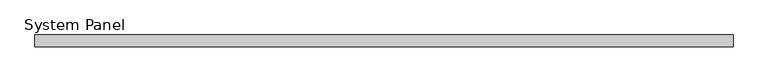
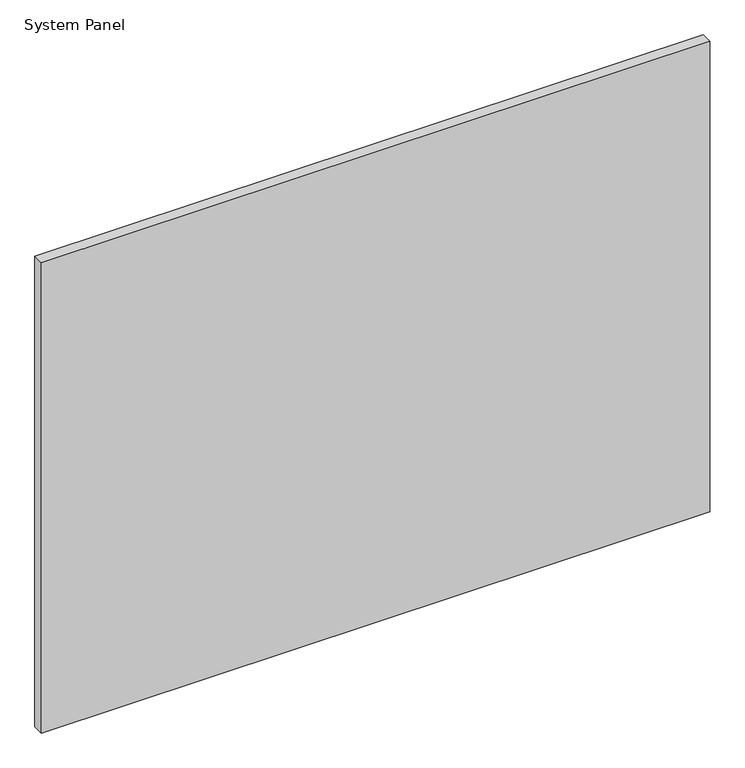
"""IFC4 building model written with IfcOpenShell, lengths in millimetres: plate geometry, System Panel : Glazed - ACMP (AL-1)."""

import ifcopenshell
import ifcopenshell.guid

model = None  # the IFC model being written
_history = None  # IfcOwnerHistory: only IFC2X3 demands one
_inside = {}  # id of a spatial element -> (the spatial element, [elements in it])
_under = {}  # id of a project, library or spatial element -> (it, [spatial elements below it])
_declared = {}  # id of a project -> (the project, [libraries it declares])
_typed = {}  # id of a type object -> (the type object, [elements of that type])
_made_of = {}  # id of a material, layer set ... -> (it, [elements and type objects made of it])


def new_model(schema):
    """Start an empty IFC model of exactly this schema.

    Asked for "IFC4X3", IfcOpenShell would pick the latest addendum, in which some entities
    have other attributes; the version numbers below select the first issue.
    IFC2X3 requires an IfcOwnerHistory on every rooted entity: one is made here for all.
    """
    global model, _history
    if schema == "IFC4X3":
        model = ifcopenshell.file(schema_version=(4, 3, 0, 0))
    else:
        model = ifcopenshell.file(schema=schema)
    _inside.clear()
    _under.clear()
    _declared.clear()
    _typed.clear()
    _made_of.clear()
    _history = None
    if model.schema == "IFC2X3":
        org = make("IfcOrganization", Name="unknown")
        user = make(
            "IfcPersonAndOrganization",
            ThePerson=make("IfcPerson", FamilyName="unknown"),
            TheOrganization=org,
        )
        app = make(
            "IfcApplication",
            ApplicationDeveloper=org,
            Version="unknown",
            ApplicationFullName="unknown",
            ApplicationIdentifier="unknown",
        )
        _history = make(
            "IfcOwnerHistory",
            OwningUser=user,
            OwningApplication=app,
            ChangeAction="ADDED",
            CreationDate=0,
        )
    return model


def make(cls, **values):
    """One entity of the class cls with the attributes given. An attribute that is None is left unset."""
    return model.create_entity(
        cls, **{name: value for name, value in values.items() if value is not None}
    )


def rooted(cls, **values):
    """An entity with a GlobalId (a new one), such as an element, a storey or a relation."""
    return make(cls, GlobalId=ifcopenshell.guid.new(), OwnerHistory=_history, **values)


def si_unit(unit_type, name, prefix=None):
    """IfcSIUnit, for example si_unit("LENGTHUNIT", "METRE", prefix="MILLI")."""
    return make("IfcSIUnit", UnitType=unit_type, Prefix=prefix, Name=name)


def assignment(units):
    """IfcUnitAssignment: the units of a project."""
    return None if units is None else make("IfcUnitAssignment", Units=units)


def point(xyz):
    """IfcCartesianPoint."""
    return None if xyz is None else make("IfcCartesianPoint", Coordinates=xyz)


def direction(xyz):
    """IfcDirection."""
    return None if xyz is None else make("IfcDirection", DirectionRatios=xyz)


def frame(location, z_axis=None, x_axis=None):
    """IfcAxis2Placement3D, a coordinate frame: its origin and axes. An axis left out is left unset."""
    return make(
        "IfcAxis2Placement3D",
        Location=point(location),
        Axis=direction(z_axis),
        RefDirection=direction(x_axis),
    )


def origin():
    """The frame at (0, 0, 0) with its axes left unset."""
    return frame((0.0, 0.0, 0.0))


def origin_with_axes():
    """The frame at (0, 0, 0) with the z axis (0, 0, 1) and the x axis (1, 0, 0) written out."""
    return frame((0.0, 0.0, 0.0), z_axis=(0.0, 0.0, 1.0), x_axis=(1.0, 0.0, 0.0))


def place(relative_to, where):
    """IfcLocalPlacement: puts the frame where relative to a parent placement (None: the world)."""
    return make(
        "IfcLocalPlacement", PlacementRelTo=relative_to, RelativePlacement=where
    )


def context(
    kind, dimensions, precision=None, world=None, true_north=None, identifier=None
):
    """IfcGeometricRepresentationContext, for example the 3D "Model" context."""
    return make(
        "IfcGeometricRepresentationContext",
        ContextIdentifier=identifier,
        ContextType=kind,
        CoordinateSpaceDimension=dimensions,
        Precision=precision,
        WorldCoordinateSystem=world,
        TrueNorth=true_north,
    )


def project(units=None, contexts=None):
    """IfcProject with its units and contexts."""
    return rooted(
        "IfcProject",
        Name="project",
        RepresentationContexts=contexts,
        UnitsInContext=assignment(units),
    )


def spatial(cls, under=None, at=None, **own):
    """A site, building, storey or space (cls), placed at a placement, below another one or the project."""
    s = rooted(cls, ObjectPlacement=at, **own)
    if under is not None:
        _under.setdefault(under.id(), (under, []))[1].append(s)
    return s


def polyline(points):
    """IfcPolyline through the points."""
    return make("IfcPolyline", Points=[point(p) for p in points])


def outline(outer, holes=None, kind="AREA"):
    """IfcArbitraryClosedProfileDef: a profile drawn as a closed curve; with holes, ...WithVoids."""
    if holes is None:
        return make("IfcArbitraryClosedProfileDef", ProfileType=kind, OuterCurve=outer)
    return make(
        "IfcArbitraryProfileDefWithVoids",
        ProfileType=kind,
        OuterCurve=outer,
        InnerCurves=holes,
    )


def extrude(swept, where, along, depth):
    """IfcExtrudedAreaSolid: the profile swept, set in the frame where, extruded along a direction by depth."""
    return make(
        "IfcExtrudedAreaSolid",
        SweptArea=swept,
        Position=where,
        ExtrudedDirection=direction(along),
        Depth=depth,
    )


def shape(context_of_items, identifier, shape_type, items):
    """IfcShapeRepresentation: the items that make up one representation, for example the "Body"."""
    return make(
        "IfcShapeRepresentation",
        ContextOfItems=context_of_items,
        RepresentationIdentifier=identifier,
        RepresentationType=shape_type,
        Items=items,
    )


def source(mapping_origin, context_of_items, identifier, shape_type, items):
    """IfcRepresentationMap: a shape defined once, which mapped items show again and again."""
    return make(
        "IfcRepresentationMap",
        MappingOrigin=mapping_origin,
        MappedRepresentation=shape(context_of_items, identifier, shape_type, items),
    )


def transform(
    local_origin,
    x_axis=None,
    y_axis=None,
    z_axis=None,
    scale=None,
    scale2=None,
    scale3=None,
    uniform=True,
):
    """IfcCartesianTransformationOperator3D, or its non-uniform kind. x_axis, y_axis, z_axis: its Axis1, 2, 3."""
    if uniform:
        return make(
            "IfcCartesianTransformationOperator3D",
            Axis1=direction(x_axis),
            Axis2=direction(y_axis),
            LocalOrigin=point(local_origin),
            Scale=scale,
            Axis3=direction(z_axis),
        )
    return make(
        "IfcCartesianTransformationOperator3DnonUniform",
        Axis1=direction(x_axis),
        Axis2=direction(y_axis),
        LocalOrigin=point(local_origin),
        Scale=scale,
        Axis3=direction(z_axis),
        Scale2=scale2,
        Scale3=scale3,
    )


def mapped(mapping_source, mapping_target):
    """IfcMappedItem: shows the shape of a source again, moved by a transform."""
    return make(
        "IfcMappedItem", MappingSource=mapping_source, MappingTarget=mapping_target
    )


def made_of(thing, what):
    """Note that an element or type object is made of a material, layer set ...; save() writes the relation."""
    if what is not None:
        _made_of.setdefault(what.id(), (what, []))[1].append(thing)
    return thing


def element(
    cls,
    number,
    at=None,
    inside=None,
    cuts=None,
    type_object=None,
    material=None,
    context=None,
    identifier="Body",
    shape_type=None,
    held_by="IfcProductDefinitionShape",
    body=None,
    shapes=None,
    **own,
):
    """One element of the class cls, such as IfcWall. Its Tag is "e" and its number.

    at: its placement. inside: the storey or other place that contains it. cuts: it is an
    opening in that element (IfcRelVoidsElement). A single representation is given by context,
    identifier, shape_type and body (its items); several are given by shapes. held_by: the class
    of the entity that holds the representations. save() writes the other relations.
    """
    e = rooted(cls, Tag="e%d" % number, ObjectPlacement=at, **own)
    if body is not None:
        shapes = [shape(context, identifier, shape_type, body)]
    if shapes is not None:
        e.Representation = make(held_by, Representations=shapes)
    if inside is not None:
        _inside.setdefault(inside.id(), (inside, []))[1].append(e)
    if cuts is not None:
        rooted(
            "IfcRelVoidsElement", RelatingBuildingElement=cuts, RelatedOpeningElement=e
        )
    if type_object is not None:
        _typed.setdefault(type_object.id(), (type_object, []))[1].append(e)
    return made_of(e, material)


def aggregate(whole, parts):
    """IfcRelAggregates: a whole, such as a stair, and the parts it consists of."""
    return rooted("IfcRelAggregates", RelatingObject=whole, RelatedObjects=parts)


def save(model, path):
    """Write the relations noted so far, then the file.

    IfcRelAggregates (storeys below a building ...), IfcRelContainedInSpatialStructure (elements
    in a storey), IfcRelDefinesByType, IfcRelAssociatesMaterial and IfcRelDeclares: one each for
    every whole, place, type object, material and project.
    """
    for whole, parts in _under.values():
        aggregate(whole, parts)
    for where, things in _inside.values():
        rooted(
            "IfcRelContainedInSpatialStructure",
            RelatedElements=things,
            RelatingStructure=where,
        )
    for kind, things in _typed.values():
        rooted("IfcRelDefinesByType", RelatedObjects=things, RelatingType=kind)
    for what, things in _made_of.values():
        rooted("IfcRelAssociatesMaterial", RelatedObjects=things, RelatingMaterial=what)
    for by, libraries in _declared.values():
        rooted("IfcRelDeclares", RelatingContext=by, RelatedDefinitions=libraries)
    model.write(path)


def system_panel_1f41f749(model_context):
    return source(origin(), model_context, "Body", "SweptSolid", [
        extrude(outline(polyline([(755.65, -25.4), (-755.65, -25.4), (-755.65, 0.0), (755.65, 0.0), (755.65, -25.4)])), origin_with_axes(), (0.0, 0.0, 1.0), 1124.7926944),
    ])


if __name__ == "__main__":
    model = new_model("IFC4")
    model_context = context("Model", 3, world=origin())
    ifc_project = project(units=[si_unit("LENGTHUNIT", "METRE", prefix="MILLI")], contexts=[model_context])
    site = spatial("IfcSite", under=ifc_project)
    building = spatial("IfcBuilding", under=site)
    placement = place(None, origin())
    system_panel_shape = system_panel_1f41f749(model_context)
    element("IfcPlate", 1, ObjectType="System Panel : Glazed - ACMP (AL-1)", at=placement, inside=building, context=model_context, shape_type="MappedRepresentation", body=[
        mapped(system_panel_shape, transform((0.0, 0.0, 0.0), x_axis=(1.0, 0.0, 0.0), y_axis=(0.0, 1.0, 0.0), z_axis=(0.0, 0.0, 1.0))),
    ])
    save(model, "model.ifc")
